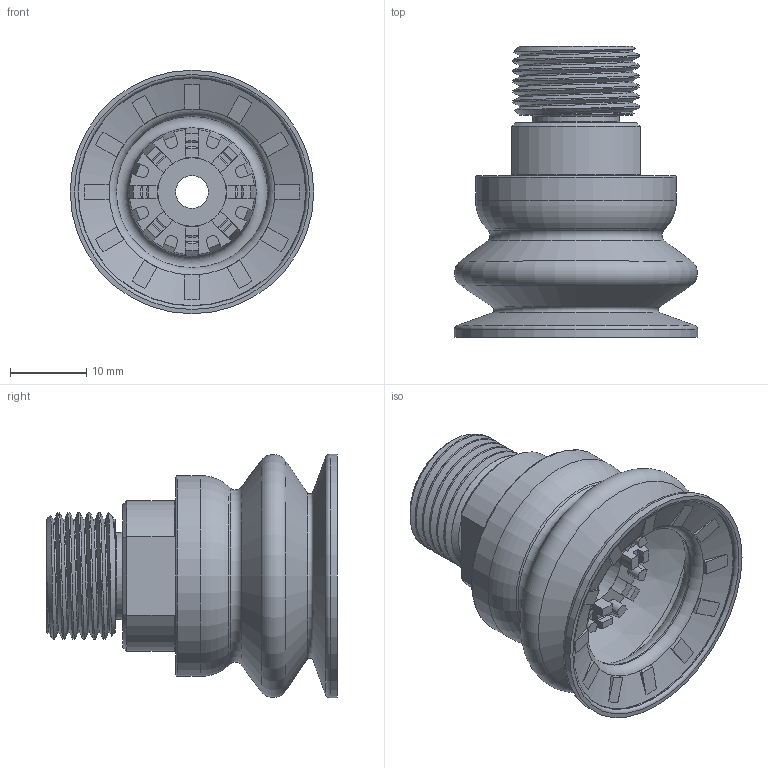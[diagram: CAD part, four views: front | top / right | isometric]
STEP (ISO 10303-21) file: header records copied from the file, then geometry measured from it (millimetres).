
FILE_DESCRIPTION (( 'STEP AP203' ), '1' );
FILE_NAME ('8R 32--M38.STEP', '2022-07-26T09:48:50', ( '' ), ( '' ), 'SwSTEP 2.0', 'SolidWorks 2021', '' );
FILE_SCHEMA (( 'CONFIG_CONTROL_DESIGN' ));
Length unit declared in the file: millimetre
Products named in the file (1): 8R 32--M38
Bounding box: 31.98 x 38.21 x 31.98 mm (x, y, z)
Volume: 9461 mm3; surface area: 10237.1 mm2
Topology: 3 solids, 3 shells, 250 faces, 669 edges, 432 vertices
Faces by surface type: plane 135, cylinder 48, torus 37, cone 19, bspline 11
Full cylindrical faces by diameter (mm): 4.3 x1, 6 x1, 8.994 x1, 11.445 x1, 13.7 x1, 19.888 x1, 23 x2, 26.383 x1, 29.981 x1, 31.98 x1
Entity records: 14353 total; most frequent: CARTESIAN_POINT 8508, ORIENTED_EDGE 1238, DIRECTION 1106, EDGE_CURVE 619, AXIS2_PLACEMENT_3D 432, VERTEX_POINT 425, EDGE_LOOP 306, FACE_OUTER_BOUND 280
